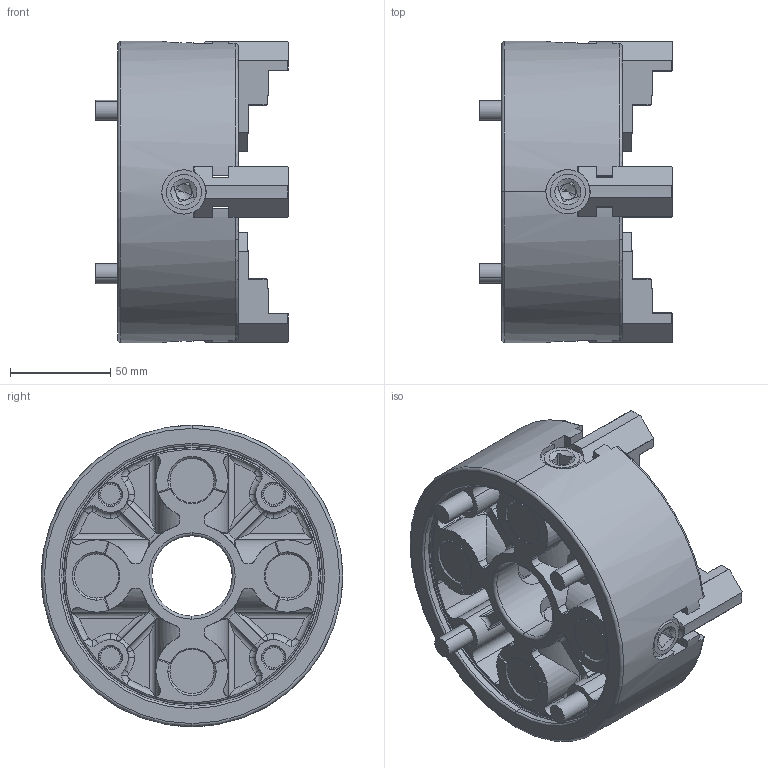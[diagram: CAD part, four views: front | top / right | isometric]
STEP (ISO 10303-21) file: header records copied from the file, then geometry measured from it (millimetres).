
FILE_DESCRIPTION (( 'STEP AP214' ), '1' );
FILE_NAME ('IC-06_ガイケイ.STEP', '2025-02-25T04:40:35', ( '' ), ( '' ), 'SwSTEP 2.0', 'SolidWorks 2022', '' );
FILE_SCHEMA (( 'AUTOMOTIVE_DESIGN' ));
Length unit declared in the file: millimetre
Products named in the file (1): IC-06_ガイケイ
Bounding box: 96 x 150.15 x 150.15 mm (x, y, z)
Volume: 823414.9 mm3; surface area: 141534.4 mm2
Topology: 1 solids, 1 shells, 1131 faces, 3164 edges, 1992 vertices
Faces by surface type: cylinder 510, plane 367, cone 132, torus 82, sphere 24, bspline 16
Entity records: 39538 total; most frequent: CARTESIAN_POINT 11604, ORIENTED_EDGE 6304, DIRECTION 5526, EDGE_CURVE 3152, AXIS2_PLACEMENT_3D 2086, VERTEX_POINT 1992, LINE 1354, VECTOR 1354
